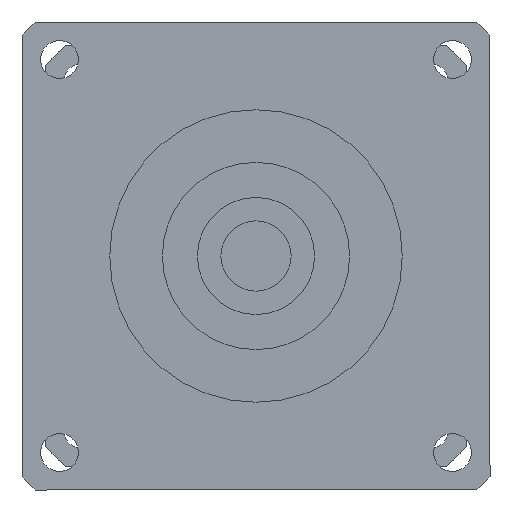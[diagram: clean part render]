
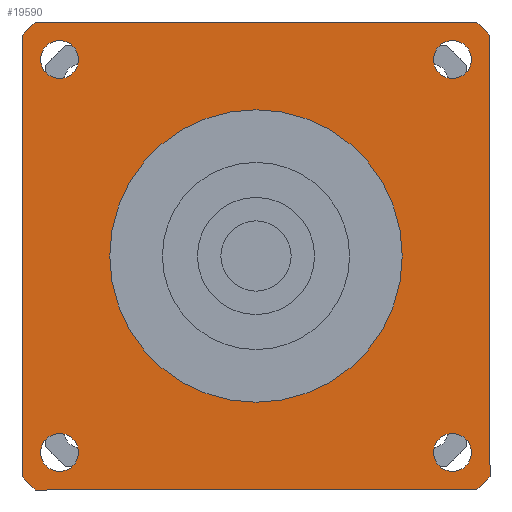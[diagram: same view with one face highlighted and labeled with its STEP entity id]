
A CAD part, left-side view. The second image highlights one B-rep face of the part: STEP entity #19590.
In plain terms, the highlighted planar face has unit normal (-1, 0, 0) as drawn and (0, 0, -1) by its records, which use the part's own axes.
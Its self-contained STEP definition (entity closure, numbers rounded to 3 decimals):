
#15210=CARTESIAN_POINT('',(-40.,37.749,-93.));
#15220=VERTEX_POINT('',#15210);
#15370=CARTESIAN_POINT('',(-40.,-37.749,-93.));
#15380=VERTEX_POINT('',#15370);
#15410=CARTESIAN_POINT('',(-40.,40.,-93.));
#15420=DIRECTION('',(0.,-1.,0.));
#15430=VECTOR('',#15420,1000.);
#15440=LINE('',#15410,#15430);
#15450=EDGE_CURVE('',#15220,#15380,#15440,.T.);
#15610=CARTESIAN_POINT('',(-37.749,40.,-93.));
#15620=VERTEX_POINT('',#15610);
#15730=CARTESIAN_POINT('',(0.,0.,
-93.));
#15740=DIRECTION('',(0.,0.,1.));
#15750=DIRECTION('',(0.,-1.,0.));
#15760=AXIS2_PLACEMENT_3D('',#15730,#15740,#15750);
#15770=CIRCLE('',#15760,55.);
#15780=EDGE_CURVE('',#15620,#15220,#15770,.T.);
#17590=CARTESIAN_POINT('',(37.749,40.,-93.));
#17600=VERTEX_POINT('',#17590);
#17650=CARTESIAN_POINT('',(40.,40.,-93.));
#17660=DIRECTION('',(-1.,0.,0.));
#17670=VECTOR('',#17660,1000.);
#17680=LINE('',#17650,#17670);
#17690=EDGE_CURVE('',#17600,#15620,#17680,.T.);
#17800=CARTESIAN_POINT('',(0.,0.,
-93.));
#17810=DIRECTION('',(0.,0.,1.));
#17820=DIRECTION('',(0.,-1.,0.));
#17830=AXIS2_PLACEMENT_3D('',#17800,#17810,#17820);
#17840=CIRCLE('',#17830,55.);
#17850=CARTESIAN_POINT('',(40.,37.749,-93.));
#17860=VERTEX_POINT('',#17850);
#17870=EDGE_CURVE('',#17860,#17600,#17840,.T.);
#18080=CARTESIAN_POINT('',(40.,-37.749,-93.));
#18090=VERTEX_POINT('',#18080);
#18140=CARTESIAN_POINT('',(40.,-40.,-93.));
#18150=DIRECTION('',(0.,1.,0.));
#18160=VECTOR('',#18150,1000.);
#18170=LINE('',#18140,#18160);
#18180=EDGE_CURVE('',#18090,#17860,#18170,.T.);
#18340=CARTESIAN_POINT('',(-37.749,-40.,-93.));
#18350=VERTEX_POINT('',#18340);
#18380=CARTESIAN_POINT('',(0.,0.,
-93.));
#18390=DIRECTION('',(0.,0.,1.));
#18400=DIRECTION('',(0.,-1.,0.));
#18410=AXIS2_PLACEMENT_3D('',#18380,#18390,#18400);
#18420=CIRCLE('',#18410,55.);
#18430=EDGE_CURVE('',#15380,#18350,#18420,.T.);
#18480=CARTESIAN_POINT('',(-40.,40.,-93.));
#18490=DIRECTION('',(0.,0.,1.));
#18500=DIRECTION('',(-1.,0.,0.));
#18510=AXIS2_PLACEMENT_3D('',#18480,#18490,#18500);
#18520=PLANE('',#18510);
#18530=CARTESIAN_POINT('',(33.588,-33.588,-93.));
#18540=DIRECTION('',(0.,0.,-1.));
#18550=DIRECTION('',(1.,0.,0.));
#18560=AXIS2_PLACEMENT_3D('',#18530,#18540,#18550);
#18570=CIRCLE('',#18560,3.25);
#18580=CARTESIAN_POINT('',(36.838,-33.588,-93.));
#18590=VERTEX_POINT('',#18580);
#18600=CARTESIAN_POINT('',(33.588,-36.838,-93.));
#18610=VERTEX_POINT('',#18600);
#18620=EDGE_CURVE('',#18590,#18610,#18570,.T.);
#18630=ORIENTED_EDGE('',*,*,#18620,.F.);
#18640=CARTESIAN_POINT('',(33.588,-30.338,-93.));
#18650=VERTEX_POINT('',#18640);
#18660=EDGE_CURVE('',#18610,#18650,#18570,.T.);
#18670=ORIENTED_EDGE('',*,*,#18660,.F.);
#18680=EDGE_CURVE('',#18650,#18590,#18570,.T.);
#18690=ORIENTED_EDGE('',*,*,#18680,.F.);
#18700=EDGE_LOOP('',(#18690,#18670,#18630));
#18710=FACE_BOUND('',#18700,.T.);
#18720=CARTESIAN_POINT('',(33.588,33.588,-93.));
#18730=DIRECTION('',(0.,0.,-1.));
#18740=DIRECTION('',(0.,1.,0.));
#18750=AXIS2_PLACEMENT_3D('',#18720,#18730,#18740);
#18760=CIRCLE('',#18750,3.25);
#18770=CARTESIAN_POINT('',(33.588,36.838,-93.));
#18780=VERTEX_POINT('',#18770);
#18790=CARTESIAN_POINT('',(36.838,33.588,-93.));
#18800=VERTEX_POINT('',#18790);
#18810=EDGE_CURVE('',#18780,#18800,#18760,.T.);
#18820=ORIENTED_EDGE('',*,*,#18810,.F.);
#18830=CARTESIAN_POINT('',(30.338,33.588,-93.));
#18840=VERTEX_POINT('',#18830);
#18850=EDGE_CURVE('',#18800,#18840,#18760,.T.);
#18860=ORIENTED_EDGE('',*,*,#18850,.F.);
#18870=EDGE_CURVE('',#18840,#18780,#18760,.T.);
#18880=ORIENTED_EDGE('',*,*,#18870,.F.);
#18890=EDGE_LOOP('',(#18880,#18860,#18820));
#18900=FACE_BOUND('',#18890,.T.);
#18910=CARTESIAN_POINT('',(-33.588,33.588,-93.));
#18920=DIRECTION('',(0.,0.,-1.));
#18930=DIRECTION('',(-1.,0.,0.));
#18940=AXIS2_PLACEMENT_3D('',#18910,#18920,#18930);
#18950=CIRCLE('',#18940,3.25);
#18960=CARTESIAN_POINT('',(-33.588,36.838,-93.));
#18970=VERTEX_POINT('',#18960);
#18980=CARTESIAN_POINT('',(-33.588,30.338,-93.));
#18990=VERTEX_POINT('',#18980);
#19000=EDGE_CURVE('',#18970,#18990,#18950,.T.);
#19010=ORIENTED_EDGE('',*,*,#19000,.F.);
#19020=EDGE_CURVE('',#18990,#18970,#18950,.T.);
#19030=ORIENTED_EDGE('',*,*,#19020,.F.);
#19040=EDGE_LOOP('',(#19030,#19010));
#19050=FACE_BOUND('',#19040,.T.);
#19060=CARTESIAN_POINT('',(-33.588,-33.588,-93.));
#19070=DIRECTION('',(0.,0.,-1.));
#19080=DIRECTION('',(0.,-1.,0.));
#19090=AXIS2_PLACEMENT_3D('',#19060,#19070,#19080);
#19100=CIRCLE('',#19090,3.25);
#19110=CARTESIAN_POINT('',(-36.838,-33.588,-93.));
#19120=VERTEX_POINT('',#19110);
#19130=CARTESIAN_POINT('',(-30.338,-33.588,-93.));
#19140=VERTEX_POINT('',#19130);
#19150=EDGE_CURVE('',#19120,#19140,#19100,.T.);
#19160=ORIENTED_EDGE('',*,*,#19150,.F.);
#19170=EDGE_CURVE('',#19140,#19120,#19100,.T.);
#19180=ORIENTED_EDGE('',*,*,#19170,.F.);
#19190=EDGE_LOOP('',(#19180,#19160));
#19200=FACE_BOUND('',#19190,.T.);
#19210=ORIENTED_EDGE('',*,*,#18430,.F.);
#19220=CARTESIAN_POINT('',(-40.,-40.,-93.));
#19230=DIRECTION('',(1.,0.,0.));
#19240=VECTOR('',#19230,1000.);
#19250=LINE('',#19220,#19240);
#19260=CARTESIAN_POINT('',(37.749,-40.,-93.));
#19270=VERTEX_POINT('',#19260);
#19280=EDGE_CURVE('',#18350,#19270,#19250,.T.);
#19290=ORIENTED_EDGE('',*,*,#19280,.F.);
#19300=CARTESIAN_POINT('',(0.,0.,
-93.));
#19310=DIRECTION('',(0.,0.,1.));
#19320=DIRECTION('',(0.,-1.,0.));
#19330=AXIS2_PLACEMENT_3D('',#19300,#19310,#19320);
#19340=CIRCLE('',#19330,55.);
#19350=EDGE_CURVE('',#19270,#18090,#19340,.T.);
#19360=ORIENTED_EDGE('',*,*,#19350,.F.);
#19370=ORIENTED_EDGE('',*,*,#18180,.F.);
#19380=ORIENTED_EDGE('',*,*,#17870,.F.);
#19390=ORIENTED_EDGE('',*,*,#17690,.F.);
#19400=ORIENTED_EDGE('',*,*,#15780,.F.);
#19410=ORIENTED_EDGE('',*,*,#15450,.F.);
#19420=EDGE_LOOP('',(#19410,#19400,#19390,#19380,#19370,#19360,#19290,
#19210));
#19430=FACE_OUTER_BOUND('',#19420,.T.);
#19440=CARTESIAN_POINT('',(0.,0.,
-93.));
#19450=DIRECTION('',(0.,0.,1.));
#19460=DIRECTION('',(0.,-1.,0.));
#19470=AXIS2_PLACEMENT_3D('',#19440,#19450,#19460);
#19480=CIRCLE('',#19470,25.);
#19490=CARTESIAN_POINT('',(-25.,0.,-93.));
#19500=VERTEX_POINT('',#19490);
#19510=CARTESIAN_POINT('',(25.,0.,-93.));
#19520=VERTEX_POINT('',#19510);
#19530=EDGE_CURVE('',#19500,#19520,#19480,.T.);
#19540=ORIENTED_EDGE('',*,*,#19530,.T.);
#19550=EDGE_CURVE('',#19520,#19500,#19480,.T.);
#19560=ORIENTED_EDGE('',*,*,#19550,.T.);
#19570=EDGE_LOOP('',(#19560,#19540));
#19580=FACE_BOUND('',#19570,.T.);
#19590=ADVANCED_FACE('',(#18710,#18900,#19050,#19200,#19430,#19580),
#18520,.F.);
